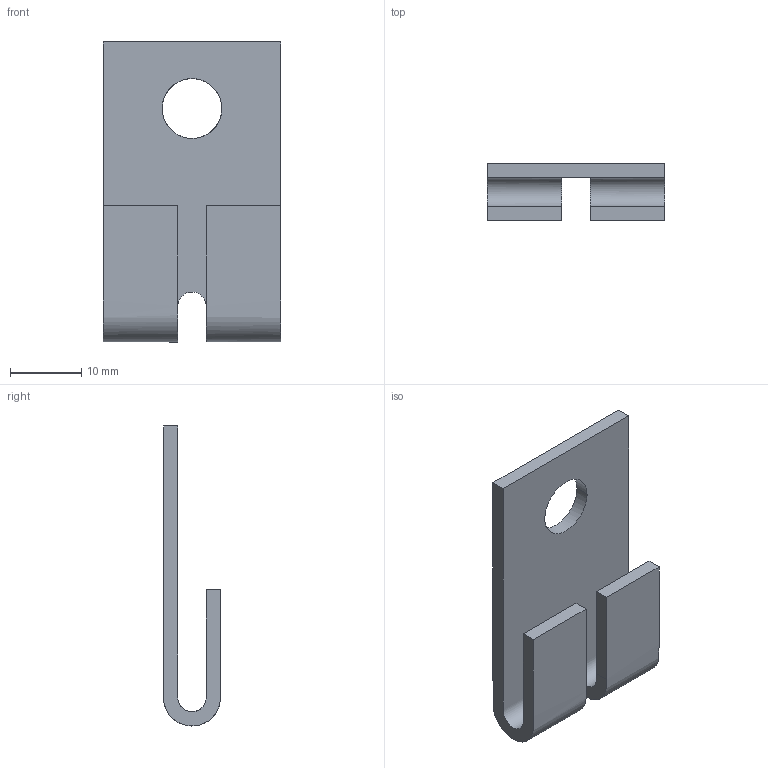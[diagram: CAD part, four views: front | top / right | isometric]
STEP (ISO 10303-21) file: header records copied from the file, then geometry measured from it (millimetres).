
FILE_DESCRIPTION(/* description */ (''),/* implementation_level */ '2;1');
FILE_NAME(/* name */ 'DZM08',/* time_stamp */ '2012-11-29T22:46:11+01:00',/* author */ (''),/* organization */ (''),/* preprocessor_version */ 'ST-DEVELOPER v10',/* originating_system */ '',/* authorisation */ '');
FILE_SCHEMA (('AUTOMOTIVE_DESIGN_CC2'));
Length unit declared in the file: millimetre
Products named in the file (1): 1
Bounding box: 25 x 8 x 42.14 mm (x, y, z)
Surface area: 3376.6 mm2 (no closed solid volume)
Topology: 0 solids, 12 shells, 13 faces, 62 edges, 60 vertices
Faces by surface type: plane 8, bspline 5
Entity records: 909 total; most frequent: CARTESIAN_POINT 474, ORIENTED_EDGE 64, EDGE_CURVE 62, VERTEX_POINT 60, B_SPLINE_CURVE_WITH_KNOTS 38, EDGE_LOOP 15, ADVANCED_FACE 13, FACE_OUTER_BOUND 13
